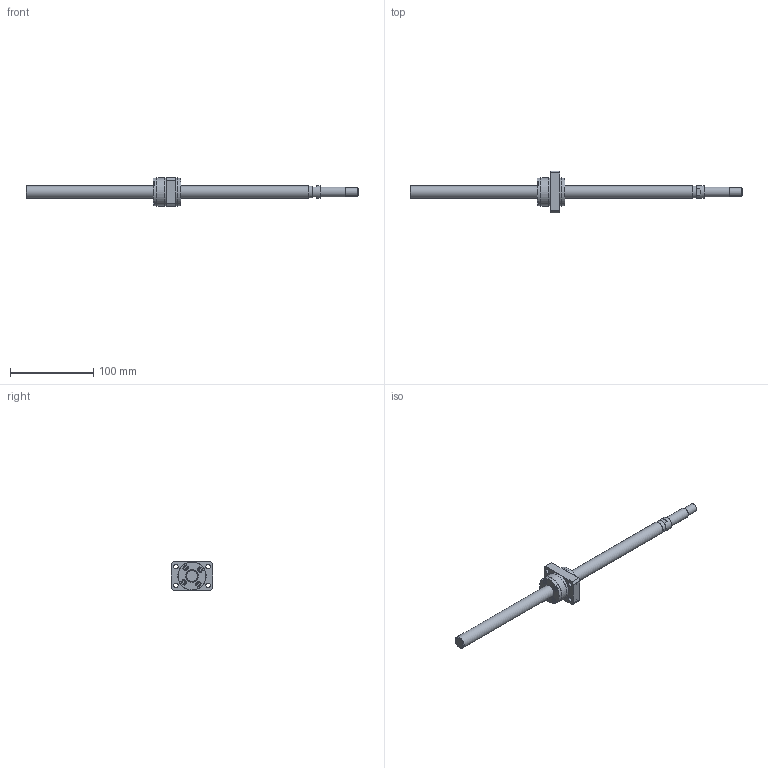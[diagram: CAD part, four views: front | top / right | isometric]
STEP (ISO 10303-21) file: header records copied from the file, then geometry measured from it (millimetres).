
FILE_DESCRIPTION(/* description */ ('STEP AP214'),/* implementation_level */ '2;1');
FILE_NAME(/* name */ 'SG1505 -340R400C5A0X(153.5)',/* time_stamp */ '2026-07-24T21:02:25+02:00',/* author */ ('License CC BY-ND 4.0'),/* organization */ ('CADENAS'),/* preprocessor_version */ 'ST-DEVELOPER v20',/* originating_system */ 'PARTsolutions',/* authorisation */ ' ');
FILE_SCHEMA (('AUTOMOTIVE_DESIGN {1 0 10303 214 3 1 1}'));
Length unit declared in the file: millimetre
Products named in the file (3): SG1505 -340R400C5A0X(153.5); SG1505-340R400C5A_shaft; SG1505  C5_nut
Assembly tree (2 placements, depth 2):
  SG1505 -340R400C5A0X(153.5)
    SG1505-340R400C5A_shaft
    SG1505  C5_nut
Bounding box: 400 x 50 x 34 mm (x, y, z)
Volume: 97077 mm3; surface area: 28598.8 mm2
Topology: 2 solids, 2 shells, 114 faces, 257 edges, 166 vertices
Faces by surface type: plane 73, cylinder 33, cone 7, torus 1
Full cylindrical faces by diameter (mm): 2 x1, 4.917 x1, 5.5 x8, 9.5 x4, 10 x1, 12 x1, 14.387 x1, 15 x3, 33.5 x3, 34 x2
Entity records: 3094 total; most frequent: DIRECTION 540, CARTESIAN_POINT 511, ORIENTED_EDGE 442, EDGE_CURVE 221, AXIS2_PLACEMENT_3D 203, EDGE_LOOP 178, FACE_BOUND 178, VERTEX_POINT 163
